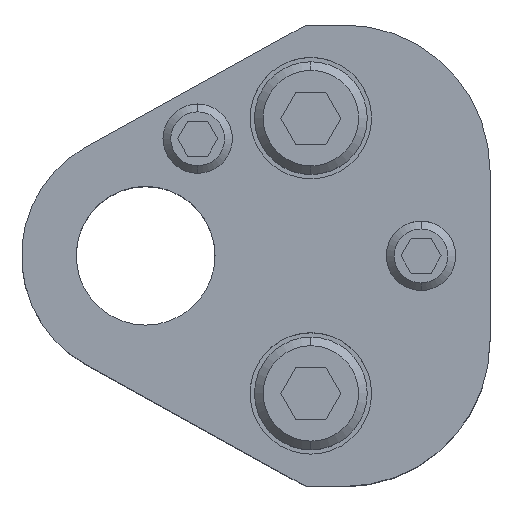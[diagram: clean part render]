
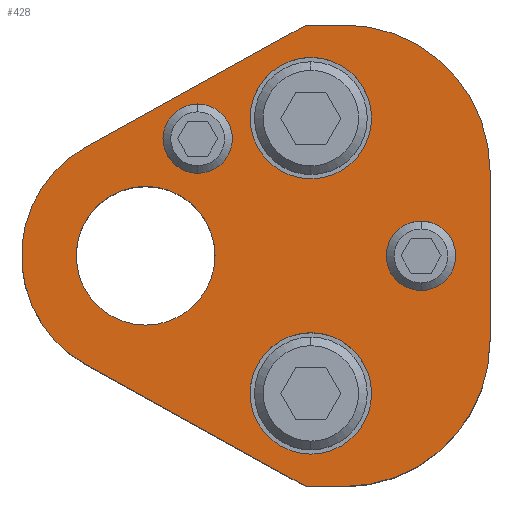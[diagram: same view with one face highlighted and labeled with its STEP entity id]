
A CAD part, top view. The second image highlights one B-rep face of the part: STEP entity #428.
In plain terms, the highlighted planar face has unit normal (0, 0, 1).
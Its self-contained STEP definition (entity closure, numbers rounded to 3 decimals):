
#198=FACE_BOUND('',#745,.T.);
#199=FACE_BOUND('',#746,.T.);
#200=FACE_BOUND('',#747,.T.);
#201=FACE_BOUND('',#748,.T.);
#202=FACE_BOUND('',#749,.T.);
#203=FACE_BOUND('',#750,.T.);
#276=CIRCLE('',#2330,16.8);
#278=CIRCLE('',#2334,16.8);
#281=CIRCLE('',#2340,14.3);
#282=CIRCLE('',#2342,4.);
#284=CIRCLE('',#2345,4.);
#286=CIRCLE('',#2348,4.);
#288=CIRCLE('',#2351,4.);
#298=CIRCLE('',#2366,7.);
#299=CIRCLE('',#2367,7.);
#300=CIRCLE('',#2368,7.);
#301=CIRCLE('',#2369,7.);
#302=CIRCLE('',#2370,8.);
#303=CIRCLE('',#2371,8.);
#428=ADVANCED_FACE('',(#198,#199,#200,#201,#202,#203),#522,.T.);
#522=PLANE('',#2372);
#745=EDGE_LOOP('',(#1129,#1130,#1131,#1132,#1133,#1134,#1135,#1136));
#746=EDGE_LOOP('',(#1137,#1138));
#747=EDGE_LOOP('',(#1139,#1140));
#748=EDGE_LOOP('',(#1141,#1142));
#749=EDGE_LOOP('',(#1143,#1144));
#750=EDGE_LOOP('',(#1145,#1146));
#1129=ORIENTED_EDGE('',*,*,#1724,.T.);
#1130=ORIENTED_EDGE('',*,*,#1728,.T.);
#1131=ORIENTED_EDGE('',*,*,#1731,.T.);
#1132=ORIENTED_EDGE('',*,*,#1734,.T.);
#1133=ORIENTED_EDGE('',*,*,#1737,.T.);
#1134=ORIENTED_EDGE('',*,*,#1740,.T.);
#1135=ORIENTED_EDGE('',*,*,#1743,.T.);
#1136=ORIENTED_EDGE('',*,*,#1746,.T.);
#1137=ORIENTED_EDGE('',*,*,#1771,.F.);
#1138=ORIENTED_EDGE('',*,*,#1772,.F.);
#1139=ORIENTED_EDGE('',*,*,#1773,.F.);
#1140=ORIENTED_EDGE('',*,*,#1774,.F.);
#1141=ORIENTED_EDGE('',*,*,#1757,.F.);
#1142=ORIENTED_EDGE('',*,*,#1753,.F.);
#1143=ORIENTED_EDGE('',*,*,#1751,.F.);
#1144=ORIENTED_EDGE('',*,*,#1747,.F.);
#1145=ORIENTED_EDGE('',*,*,#1775,.T.);
#1146=ORIENTED_EDGE('',*,*,#1776,.T.);
#1492=VERTEX_POINT('',#3476);
#1493=VERTEX_POINT('',#3478);
#1496=VERTEX_POINT('',#3485);
#1498=VERTEX_POINT('',#3491);
#1500=VERTEX_POINT('',#3497);
#1502=VERTEX_POINT('',#3503);
#1504=VERTEX_POINT('',#3509);
#1506=VERTEX_POINT('',#3515);
#1507=VERTEX_POINT('',#3523);
#1508=VERTEX_POINT('',#3524);
#1511=VERTEX_POINT('',#3535);
#1512=VERTEX_POINT('',#3536);
#1523=VERTEX_POINT('',#3571);
#1524=VERTEX_POINT('',#3572);
#1525=VERTEX_POINT('',#3575);
#1526=VERTEX_POINT('',#3576);
#1527=VERTEX_POINT('',#3579);
#1528=VERTEX_POINT('',#3580);
#1724=EDGE_CURVE('',#1493,#1492,#1968,.T.);
#1728=EDGE_CURVE('',#1492,#1496,#1972,.T.);
#1731=EDGE_CURVE('',#1496,#1498,#276,.T.);
#1734=EDGE_CURVE('',#1498,#1500,#1976,.T.);
#1737=EDGE_CURVE('',#1500,#1502,#278,.T.);
#1740=EDGE_CURVE('',#1502,#1504,#1980,.T.);
#1743=EDGE_CURVE('',#1504,#1506,#1983,.T.);
#1746=EDGE_CURVE('',#1506,#1493,#281,.T.);
#1747=EDGE_CURVE('',#1507,#1508,#282,.T.);
#1751=EDGE_CURVE('',#1508,#1507,#284,.T.);
#1753=EDGE_CURVE('',#1511,#1512,#286,.T.);
#1757=EDGE_CURVE('',#1512,#1511,#288,.T.);
#1771=EDGE_CURVE('',#1523,#1524,#298,.T.);
#1772=EDGE_CURVE('',#1524,#1523,#299,.T.);
#1773=EDGE_CURVE('',#1525,#1526,#300,.T.);
#1774=EDGE_CURVE('',#1526,#1525,#301,.T.);
#1775=EDGE_CURVE('',#1527,#1528,#302,.T.);
#1776=EDGE_CURVE('',#1528,#1527,#303,.T.);
#1968=LINE('',#3477,#2132);
#1972=LINE('',#3486,#2136);
#1976=LINE('',#3498,#2140);
#1980=LINE('',#3510,#2144);
#1983=LINE('',#3516,#2147);
#2132=VECTOR('',#2758,1.);
#2136=VECTOR('',#2764,1.);
#2140=VECTOR('',#2776,1.);
#2144=VECTOR('',#2788,1.);
#2147=VECTOR('',#2793,1.);
#2330=AXIS2_PLACEMENT_3D('',#3492,#2769,#2770);
#2334=AXIS2_PLACEMENT_3D('',#3504,#2781,#2782);
#2340=AXIS2_PLACEMENT_3D('',#3520,#2799,#2800);
#2342=AXIS2_PLACEMENT_3D('',#3522,#2803,#2804);
#2345=AXIS2_PLACEMENT_3D('',#3531,#2811,#2812);
#2348=AXIS2_PLACEMENT_3D('',#3534,#2817,#2818);
#2351=AXIS2_PLACEMENT_3D('',#3543,#2825,#2826);
#2366=AXIS2_PLACEMENT_3D('',#3570,#2859,#2860);
#2367=AXIS2_PLACEMENT_3D('',#3573,#2861,#2862);
#2368=AXIS2_PLACEMENT_3D('',#3574,#2863,#2864);
#2369=AXIS2_PLACEMENT_3D('',#3577,#2865,#2866);
#2370=AXIS2_PLACEMENT_3D('',#3578,#2867,#2868);
#2371=AXIS2_PLACEMENT_3D('',#3581,#2869,#2870);
#2372=AXIS2_PLACEMENT_3D('',#3582,#2871,#2872);
#2758=DIRECTION('',(0.875,-0.485,0.));
#2764=DIRECTION('',(1.,0.,0.));
#2769=DIRECTION('',(0.,0.,1.));
#2770=DIRECTION('',(-0.707,0.707,0.));
#2776=DIRECTION('',(0.,1.,0.));
#2781=DIRECTION('',(0.,0.,1.));
#2782=DIRECTION('',(-0.707,-0.707,0.));
#2788=DIRECTION('',(-1.,0.,0.));
#2793=DIRECTION('',(-0.875,-0.485,0.));
#2799=DIRECTION('',(0.,0.,1.));
#2800=DIRECTION('',(1.,0.,0.));
#2803=DIRECTION('',(0.,0.,1.));
#2804=DIRECTION('',(-1.,0.,0.));
#2811=DIRECTION('',(0.,0.,1.));
#2812=DIRECTION('',(1.,0.,0.));
#2817=DIRECTION('',(0.,0.,1.));
#2818=DIRECTION('',(-1.,0.,0.));
#2825=DIRECTION('',(0.,0.,1.));
#2826=DIRECTION('',(1.,0.,0.));
#2859=DIRECTION('',(0.,0.,1.));
#2860=DIRECTION('',(1.,0.,0.));
#2861=DIRECTION('',(0.,0.,1.));
#2862=DIRECTION('',(-1.,0.,0.));
#2863=DIRECTION('',(0.,0.,1.));
#2864=DIRECTION('',(1.,0.,0.));
#2865=DIRECTION('',(0.,0.,1.));
#2866=DIRECTION('',(-1.,0.,0.));
#2867=DIRECTION('',(0.,0.,-1.));
#2868=DIRECTION('',(-1.,0.,0.));
#2869=DIRECTION('',(0.,0.,-1.));
#2870=DIRECTION('',(1.,0.,0.));
#2871=DIRECTION('',(0.,0.,1.));
#2872=DIRECTION('',(-0.875,0.485,0.));
#3476=CARTESIAN_POINT('',(18.492,-26.6,32.));
#3477=CARTESIAN_POINT('',(18.492,-26.6,32.));
#3478=CARTESIAN_POINT('',(-6.933,-12.507,32.));
#3485=CARTESIAN_POINT('',(22.9,-26.6,32.));
#3486=CARTESIAN_POINT('',(18.492,-26.6,32.));
#3491=CARTESIAN_POINT('',(39.7,-9.8,32.));
#3492=CARTESIAN_POINT('',(22.9,-9.8,32.));
#3497=CARTESIAN_POINT('',(39.7,9.8,32.));
#3498=CARTESIAN_POINT('',(39.7,9.8,32.));
#3503=CARTESIAN_POINT('',(22.9,26.6,32.));
#3504=CARTESIAN_POINT('',(22.9,9.8,32.));
#3509=CARTESIAN_POINT('',(18.492,26.6,32.));
#3510=CARTESIAN_POINT('',(18.492,26.6,32.));
#3515=CARTESIAN_POINT('',(-6.933,12.507,32.));
#3516=CARTESIAN_POINT('',(18.492,26.6,32.));
#3520=CARTESIAN_POINT('',(0.,0.,32.));
#3522=CARTESIAN_POINT('',(6.,13.5,32.));
#3523=CARTESIAN_POINT('',(6.,9.5,32.));
#3524=CARTESIAN_POINT('',(6.,17.5,32.));
#3531=CARTESIAN_POINT('',(6.,13.5,32.));
#3534=CARTESIAN_POINT('',(31.75,0.,32.));
#3535=CARTESIAN_POINT('',(31.75,-4.,32.));
#3536=CARTESIAN_POINT('',(31.75,4.,32.));
#3543=CARTESIAN_POINT('',(31.75,0.,32.));
#3570=CARTESIAN_POINT('',(19.05,15.87,32.));
#3571=CARTESIAN_POINT('',(19.05,22.87,32.));
#3572=CARTESIAN_POINT('',(19.05,8.87,32.));
#3573=CARTESIAN_POINT('',(19.05,15.87,32.));
#3574=CARTESIAN_POINT('',(19.05,-15.87,32.));
#3575=CARTESIAN_POINT('',(19.05,-8.87,32.));
#3576=CARTESIAN_POINT('',(19.05,-22.87,32.));
#3577=CARTESIAN_POINT('',(19.05,-15.87,32.));
#3578=CARTESIAN_POINT('',(0.,0.,32.));
#3579=CARTESIAN_POINT('',(0.,8.,32.));
#3580=CARTESIAN_POINT('',(0.,-8.,32.));
#3581=CARTESIAN_POINT('',(0.,0.,32.));
#3582=CARTESIAN_POINT('',(-6.933,-12.507,32.));
